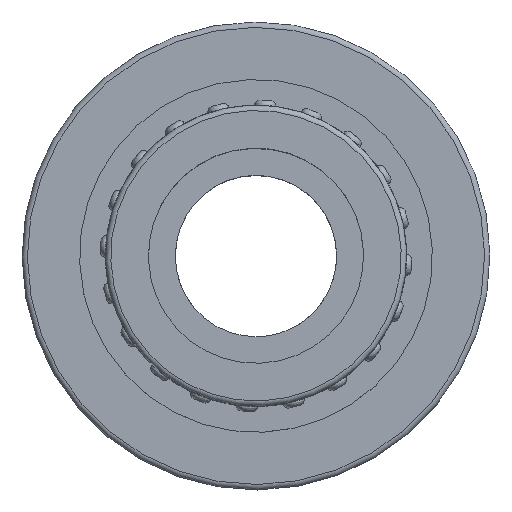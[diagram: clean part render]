
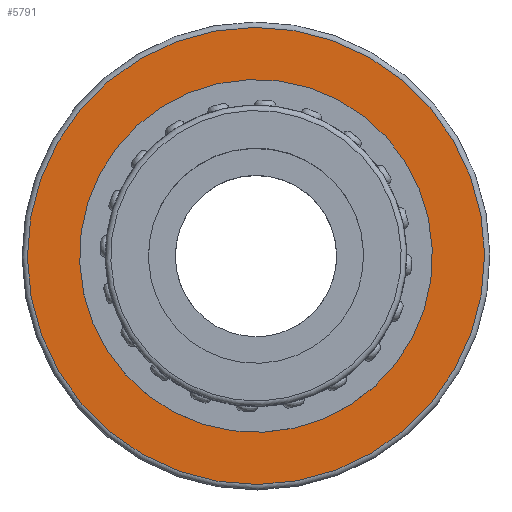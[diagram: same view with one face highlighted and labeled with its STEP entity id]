
A CAD part, top view. The second image highlights one B-rep face of the part: STEP entity #5791.
In plain terms, the highlighted planar face has unit normal (0, 0, 1).
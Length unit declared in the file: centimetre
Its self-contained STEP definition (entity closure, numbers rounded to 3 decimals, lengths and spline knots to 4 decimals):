
#1149=FACE_BOUND('',#1492,.T.);
#1175=FACE_OUTER_BOUND('',#1491,.T.);
#1491=EDGE_LOOP('',(#3625));
#1492=EDGE_LOOP('',(#3626));
#1833=CIRCLE('',#6112,2.125);
#1834=CIRCLE('',#6113,1.64);
#2187=VERTEX_POINT('',#8405);
#2188=VERTEX_POINT('',#8407);
#2761=EDGE_CURVE('',#2187,#2187,#1833,.T.);
#2762=EDGE_CURVE('',#2188,#2188,#1834,.T.);
#3625=ORIENTED_EDGE('',*,*,#2761,.F.);
#3626=ORIENTED_EDGE('',*,*,#2762,.F.);
#5353=PLANE('',#6111);
#5791=ADVANCED_FACE('',(#1175,#1149),#5353,.T.);
#6111=AXIS2_PLACEMENT_3D('',#8404,#6733,#6734);
#6112=AXIS2_PLACEMENT_3D('',#8406,#6735,#6736);
#6113=AXIS2_PLACEMENT_3D('',#8408,#6737,#6738);
#6733=DIRECTION('center_axis',(0.,0.,
1.));
#6734=DIRECTION('ref_axis',(-0.493,-0.87,0.));
#6735=DIRECTION('center_axis',(0.,0.,
-1.));
#6736=DIRECTION('ref_axis',(0.87,-0.493,0.));
#6737=DIRECTION('center_axis',(0.,0.,
1.));
#6738=DIRECTION('ref_axis',(0.537,-0.844,0.));
#8404=CARTESIAN_POINT('Origin',(-1.8917,1.0733,1.36));
#8405=CARTESIAN_POINT('',(-1.8482,1.0486,1.36));
#8406=CARTESIAN_POINT('Origin',(0.,0.,
1.36));
#8407=CARTESIAN_POINT('',(-0.8801,1.3838,1.36));
#8408=CARTESIAN_POINT('Origin',(0.,0.,
1.36));
